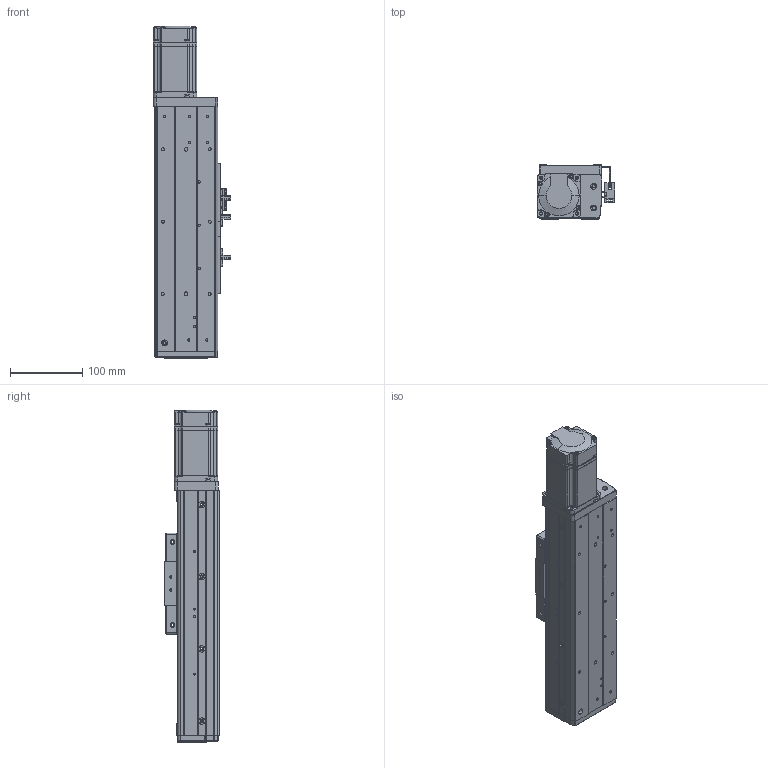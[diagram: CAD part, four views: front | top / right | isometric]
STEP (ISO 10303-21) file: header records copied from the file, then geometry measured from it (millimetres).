
FILE_DESCRIPTION (( 'STEP AP203' ), '1' );
FILE_NAME ('RY80F-L1610-300-MK.SLDASM_100.step', '2021-03-02T03:18:44', ( '盈信电脑' ), ( '东莞市道滘镇水果街19号' ), 'SwSTEP 2.0', 'SolidWorks 2012', '' );
FILE_SCHEMA (( 'CONFIG_CONTROL_DESIGN' ));
Length unit declared in the file: millimetre
Products named in the file (16): RY80俋离覜茼え; 覜茼ん672; 侂狟200W萇儂; RY80F-L1610-300-MK.SLDASM_100; 1; 672嫖萇羲壽假蚾釱; 蚥薯蝶紫輸; 滅袉蝶18-24; RY80F-詩湍揤踡輸; RY80F-佪裝眻蟀ヶ裔啣(200W PCD70 M4); RY80F-300-祥凄詩湍-MK_100; RY80F-綴裔啣(臏璃ㄘ; RY80F-滅鳥裔啣; RY80F-300丝杆直连型材盖板_100; RY80F-丝杆铝滑块(16丝杆）; RY80F-丝杆直连型材底座_100
Assembly tree (21 placements, depth 3):
  RY80F-L1610-300-MK.SLDASM_100
    RY80F-丝杆直连型材底座_100
    RY80F-300丝杆直连型材盖板_100  x2
    RY80F-丝杆铝滑块(16丝杆）
    RY80F-滅鳥裔啣
    RY80F-300-祥凄詩湍-MK_100
    RY80F-佪裝眻蟀ヶ裔啣(200W PCD70 M4)
    RY80F-詩湍揤踡輸  x2
    RY80F-綴裔啣(臏璃ㄘ
    672嫖萇羲壽假蚾釱  x2
    蚥薯蝶紫輸
    滅袉蝶18-24  x2
    侂狟200W萇儂
      1
    RY80俋离覜茼え
    覜茼ん672  x3
Bounding box: 107.2 x 75 x 460 mm (x, y, z)
Volume: 1138579.9 mm3; surface area: 398280.1 mm2
Topology: 20 solids, 20 shells, 1615 faces, 4410 edges, 2872 vertices
Faces by surface type: plane 795, cylinder 693, cone 109, bspline 18
Entity records: 45122 total; most frequent: CARTESIAN_POINT 9005, DIRECTION 7258, ORIENTED_EDGE 7092, EDGE_CURVE 3546, AXIS2_PLACEMENT_3D 2545, VERTEX_POINT 2324, LINE 2168, VECTOR 2168
